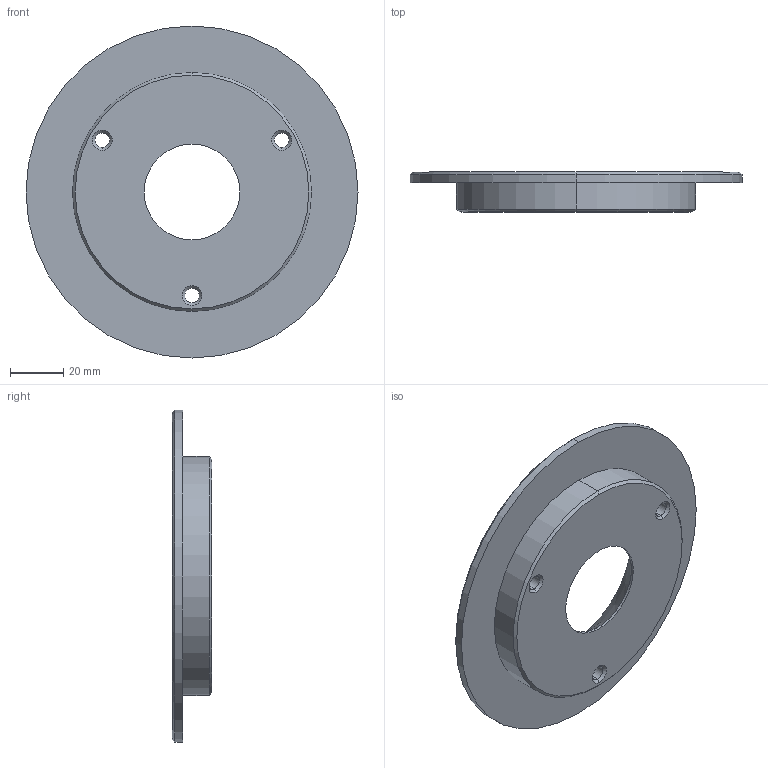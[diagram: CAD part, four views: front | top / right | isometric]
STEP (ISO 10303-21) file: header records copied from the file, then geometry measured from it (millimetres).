
FILE_DESCRIPTION (( 'STEP AP214' ), '1' );
FILE_NAME ('BR1000-125x15.STEP', '2020-02-05T12:23:11', ( 'August' ), ( '' ), 'SwSTEP 2.0', 'SolidWorks 2018', '' );
FILE_SCHEMA (( 'AUTOMOTIVE_DESIGN' ));
Length unit declared in the file: millimetre
Products named in the file (1): BR1000-125x15
Bounding box: 125 x 15 x 125 mm (x, y, z)
Volume: 87581.9 mm3; surface area: 28582 mm2
Topology: 1 solids, 1 shells, 42 faces, 90 edges, 54 vertices
Faces by surface type: cone 18, cylinder 18, plane 6
Entity records: 1194 total; most frequent: DIRECTION 230, CARTESIAN_POINT 187, ORIENTED_EDGE 180, AXIS2_PLACEMENT_3D 97, EDGE_CURVE 90, VERTEX_POINT 54, EDGE_LOOP 54, CIRCLE 54
